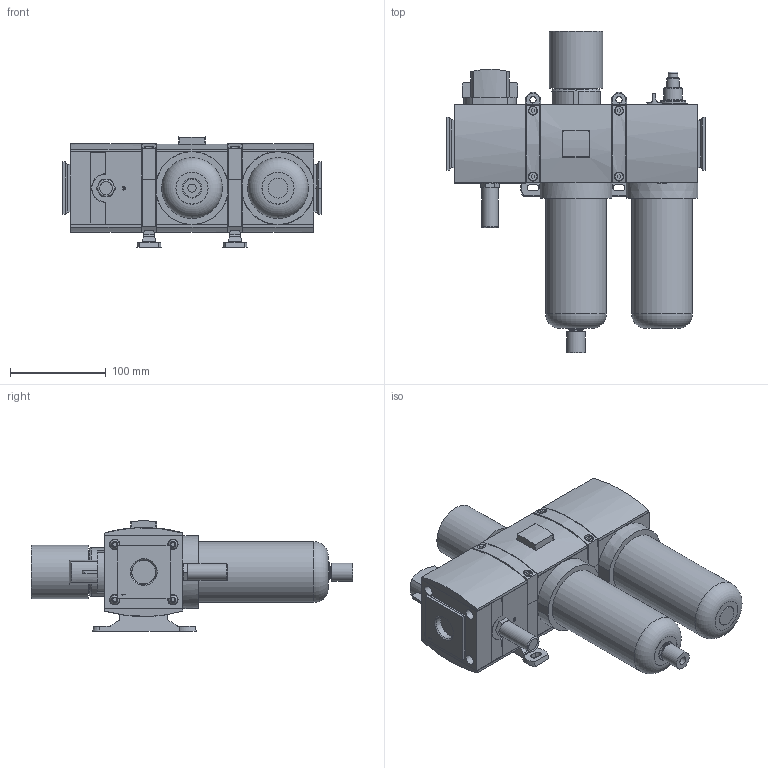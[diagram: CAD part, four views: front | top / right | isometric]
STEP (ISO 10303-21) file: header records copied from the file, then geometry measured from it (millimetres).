
FILE_DESCRIPTION( ( 'STEP AP214' ), '1' );
FILE_NAME( 'p:/temp/worker_157/temp/exporttempdir_5156_480_xf1Ng/format_0/12252020-140250_gen_27904.stp', '2020-02-12T13:25:52', ( '' ), ( '' ), ' ', 'PARTsolutions', ' ' );
FILE_SCHEMA( ( 'AUTOMOTIVE_DESIGN { 1 0 10303 214 1 1 1 1 }' ) );
Length unit declared in the file: millimetre
Products named in the file (15): 12252020-140250_gen_27904; _440562-004-005-F(L); _439489-001-0; _437742 KNOB-100_653; _653-M3MN; _440561-004-005-F(L); _G653ASLA0B00A00_LS; _439488-011-F(L); _653-438047-009; _439489-002-H; _503493-001; _510722-001-STANDARD_653; _507439-006-P; _653-440512-002; _500180-014-F(L)
Assembly tree (20 placements, depth 2):
  12252020-140250_gen_27904
    _440562-004-005-F(L)
    _439489-001-0  x5
    _437742 KNOB-100_653
    _653-M3MN
    _440561-004-005-F(L)
    _G653ASLA0B00A00_LS  x2
    _439488-011-F(L)
    _653-438047-009
    _439489-002-H
    _503493-001
    _510722-001-STANDARD_653
    _507439-006-P  x2
    _653-440512-002
    _500180-014-F(L)
Bounding box: 270 x 335.95 x 115.36 mm (x, y, z)
Volume: 3124550.1 mm3; surface area: 410106.7 mm2
Topology: 20 solids, 21 shells, 1159 faces, 2813 edges, 1800 vertices
Faces by surface type: plane 786, cylinder 244, cone 92, torus 33, sphere 4
Full cylindrical faces by diameter (mm): 1.7 x2, 2.8 x2, 5.85 x4, 6.3 x4, 6.5 x2, 8.5 x4, 8.6 x1, 9.652 x1, 10 x5, 10.4 x1, 10.8 x4, 12 x4, 12.309 x1, 12.985 x1, 13 x2, 15.1 x1, 15.875 x1, 16.105 x1, 17.3 x1, 19 x1, 19.4 x1, 21.6 x1, 27 x1, 29.5 x1, 30 x1, 33.5 x2, 43 x1, 51 x1, 55.99 x1, 63.5 x2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
Entity records: 37813 total; most frequent: CARTESIAN_POINT 5687, DIRECTION 4986, ORIENTED_EDGE 4628, EDGE_CURVE 2314, AXIS2_PLACEMENT_3D 1706, LINE 1574, VECTOR 1574, VERTEX_POINT 1554
